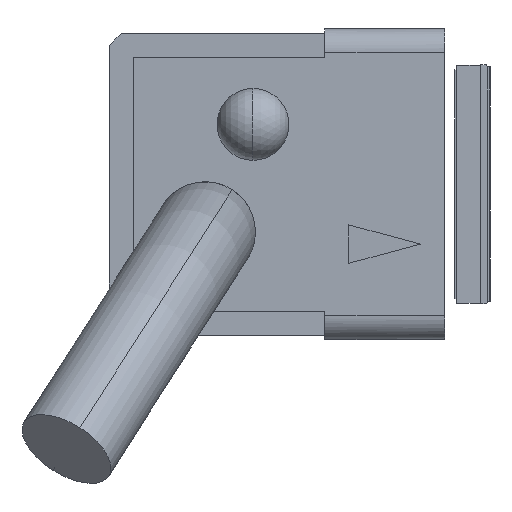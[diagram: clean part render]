
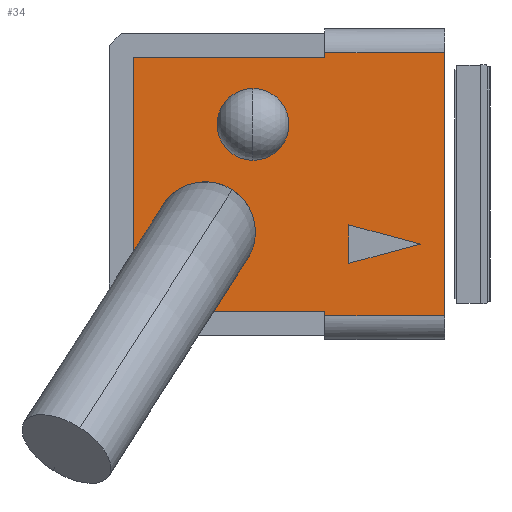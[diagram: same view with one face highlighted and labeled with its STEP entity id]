
A CAD part, left-side view. The second image highlights one B-rep face of the part: STEP entity #34.
In plain terms, the highlighted planar face has unit normal (-1, 0, 0).
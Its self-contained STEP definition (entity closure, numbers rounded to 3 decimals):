
#5 = EDGE_CURVE ( 'NONE', #17, #19, #1440, .T. ) ;
#6 = VERTEX_POINT ( 'NONE', #1436 ) ;
#7 = ORIENTED_EDGE ( 'NONE', *, *, #8, .F. ) ;
#8 = EDGE_CURVE ( 'NONE', #9, #26, #1435, .T. ) ;
#9 = VERTEX_POINT ( 'NONE', #1431 ) ;
#10 = ORIENTED_EDGE ( 'NONE', *, *, #11, .F. ) ;
#11 = EDGE_CURVE ( 'NONE', #21, #9, #1430, .T. ) ;
#12 = EDGE_LOOP ( 'NONE', ( #13, #15 ) ) ;
#13 = ORIENTED_EDGE ( 'NONE', *, *, #14, .F. ) ;
#14 = EDGE_CURVE ( 'NONE', #125, #122, #1426, .T. ) ;
#15 = ORIENTED_EDGE ( 'NONE', *, *, #124, .F. ) ;
#16 = EDGE_LOOP ( 'NONE', ( #163, #126 ) ) ;
#17 = VERTEX_POINT ( 'NONE', #1421 ) ;
#18 = ORIENTED_EDGE ( 'NONE', *, *, #5, .T. ) ;
#19 = VERTEX_POINT ( 'NONE', #1220 ) ;
#20 = EDGE_CURVE ( 'NONE', #6, #21, #1219, .T. ) ;
#21 = VERTEX_POINT ( 'NONE', #1215 ) ;
#22 = EDGE_CURVE ( 'NONE', #23, #170, #1214, .T. ) ;
#23 = VERTEX_POINT ( 'NONE', #1210 ) ;
#24 = ORIENTED_EDGE ( 'NONE', *, *, #25, .F. ) ;
#25 = EDGE_CURVE ( 'NONE', #26, #23, #1209, .T. ) ;
#26 = VERTEX_POINT ( 'NONE', #1205 ) ;
#27 = EDGE_CURVE ( 'NONE', #29, #39, #1204, .T. ) ;
#28 = ORIENTED_EDGE ( 'NONE', *, *, #36, .F. ) ;
#29 = VERTEX_POINT ( 'NONE', #1200 ) ;
#30 = ORIENTED_EDGE ( 'NONE', *, *, #32, .F. ) ;
#31 = EDGE_LOOP ( 'NONE', ( #33, #166, #18, #168, #171, #24, #7, #10 ) ) ;
#32 = EDGE_CURVE ( 'NONE', #35, #29, #1199, .T. ) ;
#33 = ORIENTED_EDGE ( 'NONE', *, *, #20, .F. ) ;
#34 = ADVANCED_FACE ( 'NONE', ( #1195, #1194, #1193, #1192 ), #1189, .F. ) ;
#35 = VERTEX_POINT ( 'NONE', #1190 ) ;
#36 = EDGE_CURVE ( 'NONE', #39, #35, #1293, .T. ) ;
#37 = ORIENTED_EDGE ( 'NONE', *, *, #27, .F. ) ;
#38 = EDGE_LOOP ( 'NONE', ( #28, #37, #30 ) ) ;
#39 = VERTEX_POINT ( 'NONE', #1289 ) ;
#65 = VERTEX_POINT ( 'NONE', #1400 ) ;
#67 = EDGE_CURVE ( 'NONE', #65, #68, #1399, .T. ) ;
#68 = VERTEX_POINT ( 'NONE', #1394 ) ;
#122 = VERTEX_POINT ( 'NONE', #1579 ) ;
#124 = EDGE_CURVE ( 'NONE', #122, #125, #1578, .T. ) ;
#125 = VERTEX_POINT ( 'NONE', #1573 ) ;
#126 = ORIENTED_EDGE ( 'NONE', *, *, #67, .F. ) ;
#163 = ORIENTED_EDGE ( 'NONE', *, *, #165, .F. ) ;
#165 = EDGE_CURVE ( 'NONE', #68, #65, #1487, .T. ) ;
#166 = ORIENTED_EDGE ( 'NONE', *, *, #167, .F. ) ;
#167 = EDGE_CURVE ( 'NONE', #17, #6, #1482, .T. ) ;
#168 = ORIENTED_EDGE ( 'NONE', *, *, #169, .F. ) ;
#169 = EDGE_CURVE ( 'NONE', #170, #19, #1464, .T. ) ;
#170 = VERTEX_POINT ( 'NONE', #1460 ) ;
#171 = ORIENTED_EDGE ( 'NONE', *, *, #22, .F. ) ;
#1188 = AXIS2_PLACEMENT_3D ( 'NONE', #1191, #1295, #1294 ) ;
#1189 = PLANE ( 'NONE',  #1188 ) ;
#1190 = CARTESIAN_POINT ( 'NONE',  ( 0., 1., 4. ) ) ;
#1191 = CARTESIAN_POINT ( 'NONE',  ( 0., 0., 13. ) ) ;
#1192 = FACE_BOUND ( 'NONE', #16, .T. ) ;
#1193 = FACE_BOUND ( 'NONE', #12, .T. ) ;
#1194 = FACE_OUTER_BOUND ( 'NONE', #31, .T. ) ;
#1195 = FACE_BOUND ( 'NONE', #38, .T. ) ;
#1196 = DIRECTION ( 'NONE',  ( 0., 0.966, 0.259 ) ) ;
#1197 = VECTOR ( 'NONE', #1196, 1000. ) ;
#1198 = CARTESIAN_POINT ( 'NONE',  ( 0., 1., 4. ) ) ;
#1199 = LINE ( 'NONE', #1198, #1197 ) ;
#1200 = CARTESIAN_POINT ( 'NONE',  ( 0., 4., 4.804 ) ) ;
#1201 = DIRECTION ( 'NONE',  ( 0., 0., -1. ) ) ;
#1202 = VECTOR ( 'NONE', #1201, 1000. ) ;
#1203 = CARTESIAN_POINT ( 'NONE',  ( 0., 4., 4.804 ) ) ;
#1204 = LINE ( 'NONE', #1203, #1202 ) ;
#1205 = CARTESIAN_POINT ( 'NONE',  ( 0., 5., 11.8 ) ) ;
#1206 = DIRECTION ( 'NONE',  ( 0., 0., 1. ) ) ;
#1207 = VECTOR ( 'NONE', #1206, 1000. ) ;
#1208 = CARTESIAN_POINT ( 'NONE',  ( 0., 5., 12.8 ) ) ;
#1209 = LINE ( 'NONE', #1208, #1207 ) ;
#1210 = CARTESIAN_POINT ( 'NONE',  ( 0., 5., 12. ) ) ;
#1211 = DIRECTION ( 'NONE',  ( 0., -1., 0. ) ) ;
#1212 = VECTOR ( 'NONE', #1211, 1000. ) ;
#1213 = CARTESIAN_POINT ( 'NONE',  ( 0., 5., 12. ) ) ;
#1214 = LINE ( 'NONE', #1213, #1212 ) ;
#1215 = CARTESIAN_POINT ( 'NONE',  ( 0., 13., 1.2 ) ) ;
#1216 = DIRECTION ( 'NONE',  ( 0., 1., 0. ) ) ;
#1217 = VECTOR ( 'NONE', #1216, 1000. ) ;
#1218 = CARTESIAN_POINT ( 'NONE',  ( 0., 13., 1.2 ) ) ;
#1219 = LINE ( 'NONE', #1218, #1217 ) ;
#1220 = CARTESIAN_POINT ( 'NONE',  ( 0., 0., 1. ) ) ;
#1289 = CARTESIAN_POINT ( 'NONE',  ( 0., 4., 3.196 ) ) ;
#1290 = DIRECTION ( 'NONE',  ( 0., -0.966, 0.259 ) ) ;
#1291 = VECTOR ( 'NONE', #1290, 1000. ) ;
#1292 = CARTESIAN_POINT ( 'NONE',  ( 0., 4., 3.196 ) ) ;
#1293 = LINE ( 'NONE', #1292, #1291 ) ;
#1294 = DIRECTION ( 'NONE',  ( 0., 1., 0. ) ) ;
#1295 = DIRECTION ( 'NONE',  ( 1., 0., 0. ) ) ;
#1394 = CARTESIAN_POINT ( 'NONE',  ( 0., 12.1, 4.5 ) ) ;
#1395 = DIRECTION ( 'NONE',  ( 0., 1., 0. ) ) ;
#1396 = DIRECTION ( 'NONE',  ( -1., 0., 0. ) ) ;
#1397 = CARTESIAN_POINT ( 'NONE',  ( 0., 10., 4.5 ) ) ;
#1398 = AXIS2_PLACEMENT_3D ( 'NONE', #1397, #1396, #1395 ) ;
#1399 = CIRCLE ( 'NONE', #1398, 2.1 ) ;
#1400 = CARTESIAN_POINT ( 'NONE',  ( 0., 7.9, 4.5 ) ) ;
#1421 = CARTESIAN_POINT ( 'NONE',  ( 0., 5., 1. ) ) ;
#1422 = DIRECTION ( 'NONE',  ( 0., 1., 0. ) ) ;
#1423 = DIRECTION ( 'NONE',  ( -1., 0., 0. ) ) ;
#1424 = CARTESIAN_POINT ( 'NONE',  ( 0., 8., 9. ) ) ;
#1425 = AXIS2_PLACEMENT_3D ( 'NONE', #1424, #1423, #1422 ) ;
#1426 = CIRCLE ( 'NONE', #1425, 1.5 ) ;
#1427 = DIRECTION ( 'NONE',  ( 0., 0., 1. ) ) ;
#1428 = VECTOR ( 'NONE', #1427, 1000. ) ;
#1429 = CARTESIAN_POINT ( 'NONE',  ( 0., 13., 1.2 ) ) ;
#1430 = LINE ( 'NONE', #1429, #1428 ) ;
#1431 = CARTESIAN_POINT ( 'NONE',  ( 0., 13., 11.8 ) ) ;
#1432 = DIRECTION ( 'NONE',  ( 0., -1., 0. ) ) ;
#1433 = VECTOR ( 'NONE', #1432, 1000. ) ;
#1434 = CARTESIAN_POINT ( 'NONE',  ( 0., 5., 11.8 ) ) ;
#1435 = LINE ( 'NONE', #1434, #1433 ) ;
#1436 = CARTESIAN_POINT ( 'NONE',  ( 0., 5., 1.2 ) ) ;
#1437 = DIRECTION ( 'NONE',  ( 0., -1., 0. ) ) ;
#1438 = VECTOR ( 'NONE', #1437, 1000. ) ;
#1439 = CARTESIAN_POINT ( 'NONE',  ( 0., 5., 1. ) ) ;
#1440 = LINE ( 'NONE', #1439, #1438 ) ;
#1460 = CARTESIAN_POINT ( 'NONE',  ( 0., 0., 12. ) ) ;
#1461 = DIRECTION ( 'NONE',  ( 0., 0., -1. ) ) ;
#1462 = VECTOR ( 'NONE', #1461, 1000. ) ;
#1463 = CARTESIAN_POINT ( 'NONE',  ( 0., 0., 13. ) ) ;
#1464 = LINE ( 'NONE', #1463, #1462 ) ;
#1465 = DIRECTION ( 'NONE',  ( 0., 0., 1. ) ) ;
#1480 = VECTOR ( 'NONE', #1465, 1000. ) ;
#1481 = CARTESIAN_POINT ( 'NONE',  ( 0., 5., 1.2 ) ) ;
#1482 = LINE ( 'NONE', #1481, #1480 ) ;
#1483 = DIRECTION ( 'NONE',  ( 0., 1., 0. ) ) ;
#1484 = DIRECTION ( 'NONE',  ( -1., 0., 0. ) ) ;
#1485 = CARTESIAN_POINT ( 'NONE',  ( 0., 10., 4.5 ) ) ;
#1486 = AXIS2_PLACEMENT_3D ( 'NONE', #1485, #1484, #1483 ) ;
#1487 = CIRCLE ( 'NONE', #1486, 2.1 ) ;
#1573 = CARTESIAN_POINT ( 'NONE',  ( 0., 9.5, 9. ) ) ;
#1574 = DIRECTION ( 'NONE',  ( 0., 1., 0. ) ) ;
#1575 = DIRECTION ( 'NONE',  ( -1., 0., 0. ) ) ;
#1576 = CARTESIAN_POINT ( 'NONE',  ( 0., 8., 9. ) ) ;
#1577 = AXIS2_PLACEMENT_3D ( 'NONE', #1576, #1575, #1574 ) ;
#1578 = CIRCLE ( 'NONE', #1577, 1.5 ) ;
#1579 = CARTESIAN_POINT ( 'NONE',  ( 0., 6.5, 9. ) ) ;
